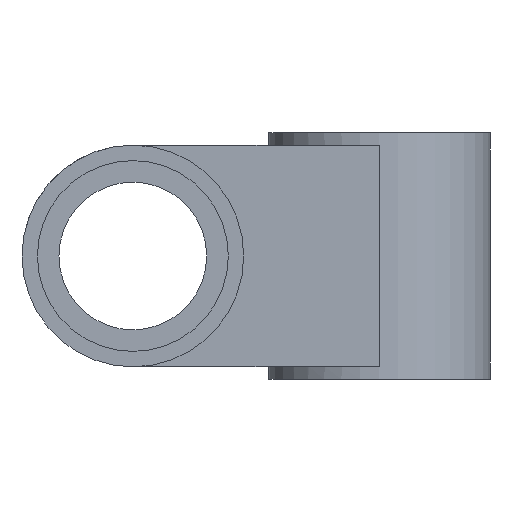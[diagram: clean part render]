
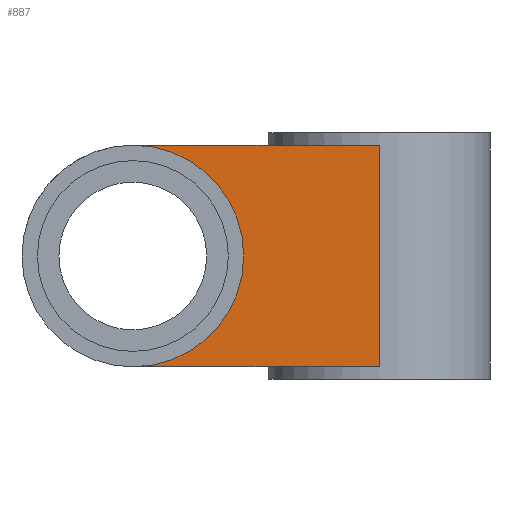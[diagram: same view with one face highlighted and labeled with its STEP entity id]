
A CAD part, left-side view. The second image highlights one B-rep face of the part: STEP entity #887.
In plain terms, the highlighted planar face has unit normal (-1, 0, 0).
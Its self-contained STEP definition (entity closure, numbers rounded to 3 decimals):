
#27=CIRCLE('',#926,3.6);
#256=ORIENTED_EDGE('',*,*,#362,.T.);
#257=ORIENTED_EDGE('',*,*,#328,.T.);
#258=ORIENTED_EDGE('',*,*,#365,.F.);
#259=ORIENTED_EDGE('',*,*,#380,.F.);
#328=EDGE_CURVE('',#445,#444,#27,.F.);
#362=EDGE_CURVE('',#469,#445,#547,.T.);
#365=EDGE_CURVE('',#471,#444,#549,.T.);
#380=EDGE_CURVE('',#469,#471,#557,.T.);
#444=VERTEX_POINT('',#1324);
#445=VERTEX_POINT('',#1326);
#469=VERTEX_POINT('',#1388);
#471=VERTEX_POINT('',#1395);
#547=LINE('',#1390,#616);
#549=LINE('',#1396,#618);
#557=LINE('',#1423,#626);
#616=VECTOR('',#1100,1000.);
#618=VECTOR('',#1106,1000.);
#626=VECTOR('',#1130,1000.);
#709=EDGE_LOOP('',(#256,#257,#258,#259));
#787=FACE_BOUND('',#709,.T.);
#836=PLANE('',#999);
#887=ADVANCED_FACE('',(#787),#836,.T.);
#926=AXIS2_PLACEMENT_3D('',#1325,#1046,#1047);
#999=AXIS2_PLACEMENT_3D('',#1519,#1247,#1248);
#1046=DIRECTION('',(-1.,0.,0.));
#1047=DIRECTION('',(0.,-1.,0.));
#1100=DIRECTION('',(0.,1.,0.));
#1106=DIRECTION('',(0.,1.,0.));
#1130=DIRECTION('',(0.,0.,-1.));
#1247=DIRECTION('',(-1.,0.,0.));
#1248=DIRECTION('',(0.,-1.,0.));
#1324=CARTESIAN_POINT('',(-3.6,8.,0.4));
#1325=CARTESIAN_POINT('',(-3.6,8.,4.));
#1326=CARTESIAN_POINT('',(-3.6,8.,7.6));
#1388=CARTESIAN_POINT('',(-3.6,0.,7.6));
#1390=CARTESIAN_POINT('',(-3.6,0.,7.6));
#1395=CARTESIAN_POINT('',(-3.6,0.,0.4));
#1396=CARTESIAN_POINT('',(-3.6,0.,0.4));
#1423=CARTESIAN_POINT('',(-3.6,0.,7.6));
#1519=CARTESIAN_POINT('',(-3.6,0.,7.6));
